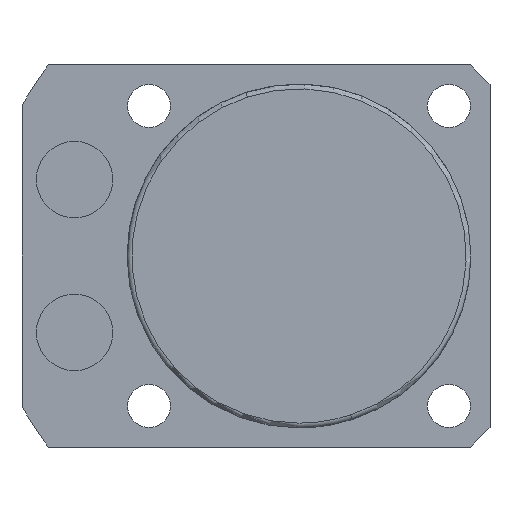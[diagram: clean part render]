
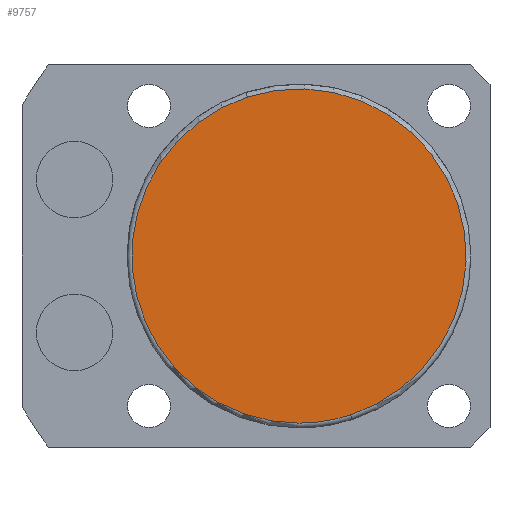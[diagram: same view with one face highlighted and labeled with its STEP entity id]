
A CAD part, front view. The second image highlights one B-rep face of the part: STEP entity #9757.
In plain terms, the highlighted planar face has unit normal (0, -1, 0).
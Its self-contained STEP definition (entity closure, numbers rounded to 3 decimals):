
#9723=CARTESIAN_POINT('',(0.0,-55.5,-17.5));
#9724=VERTEX_POINT('',#9723);
#9725=CARTESIAN_POINT('',(5.408,-55.5,-16.643));
#9726=VERTEX_POINT('',#9725);
#9727=CARTESIAN_POINT('',(0.0,-55.5,0.0));
#9728=DIRECTION('',(0.0,-1.0,0.0));
#9729=DIRECTION('',(0.0,0.0,-1.0));
#9730=AXIS2_PLACEMENT_3D('',#9727,#9728,#9729);
#9731=CIRCLE('',#9730,17.5);
#9732=EDGE_CURVE('no 4706',#9724,#9726,#9731,.T.);
#9733=ORIENTED_EDGE('',*,*,#9732,.T.);
#9734=CARTESIAN_POINT('',(-5.408,-55.5,16.643));
#9735=VERTEX_POINT('',#9734);
#9736=CARTESIAN_POINT('',(0.0,-55.5,0.0));
#9737=DIRECTION('',(0.0,-1.0,0.0));
#9738=DIRECTION('',(0.0,0.0,-1.0));
#9739=AXIS2_PLACEMENT_3D('',#9736,#9737,#9738);
#9740=CIRCLE('',#9739,17.5);
#9741=EDGE_CURVE('no 4712',#9726,#9735,#9740,.T.);
#9742=ORIENTED_EDGE('',*,*,#9741,.T.);
#9743=CARTESIAN_POINT('',(0.0,-55.5,0.0));
#9744=DIRECTION('',(0.0,-1.0,0.0));
#9745=DIRECTION('',(0.0,0.0,-1.0));
#9746=AXIS2_PLACEMENT_3D('',#9743,#9744,#9745);
#9747=CIRCLE('',#9746,17.5);
#9748=EDGE_CURVE('no 4716',#9735,#9724,#9747,.T.);
#9749=ORIENTED_EDGE('',*,*,#9748,.T.);
#9750=EDGE_LOOP('',(#9733,#9742,#9749));
#9751=FACE_OUTER_BOUND('',#9750,.T.);
#9752=CARTESIAN_POINT('',(0.0,-55.5,0.0));
#9753=DIRECTION('',(0.0,-1.0,0.0));
#9754=DIRECTION('',(0.0,0.0,-1.0));
#9755=AXIS2_PLACEMENT_3D('',#9752,#9753,#9754);
#9756=PLANE('',#9755);
#9757=ADVANCED_FACE('no 4697',(#9751),#9756,.T.);
